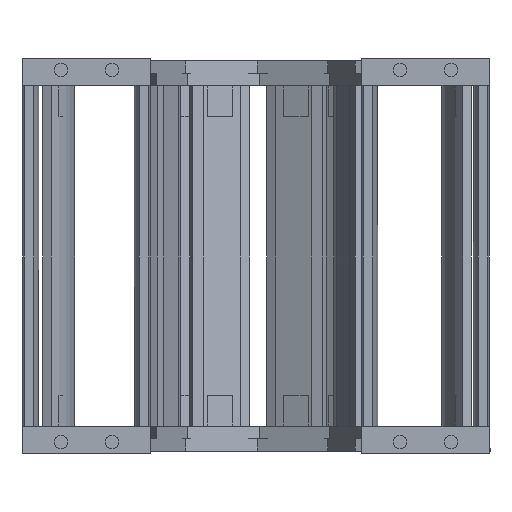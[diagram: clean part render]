
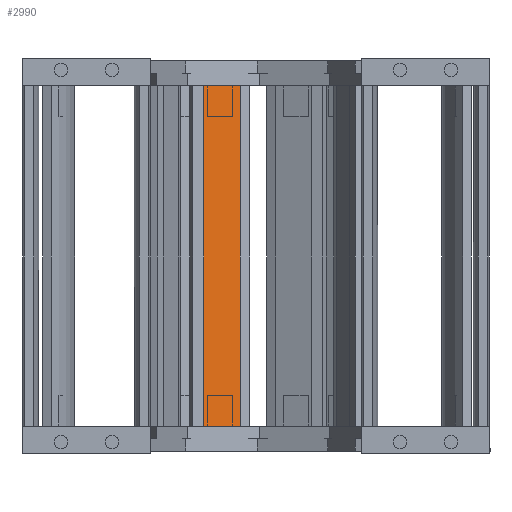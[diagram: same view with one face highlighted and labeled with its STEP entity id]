
A CAD part, left-side view. The second image highlights one B-rep face of the part: STEP entity #2990.
In plain terms, the highlighted planar face has unit normal (-0.93, -0.368, 0) as drawn and (0, -1, 0) by its records, which use the part's own axes.
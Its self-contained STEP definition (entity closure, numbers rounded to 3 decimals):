
#2823=DIRECTION('',(0.,0.,-1.));
#2824=VECTOR('',#2823,200.5);
#2825=CARTESIAN_POINT('',(-11.5,-72.,37.5));
#2826=LINE('',#2825,#2824);
#2852=DIRECTION('',(1.,0.,0.));
#2853=VECTOR('',#2852,23.);
#2854=CARTESIAN_POINT('',(-11.5,-72.,37.5));
#2855=LINE('',#2854,#2853);
#2909=DIRECTION('',(-1.,0.,0.));
#2910=VECTOR('',#2909,23.);
#2911=CARTESIAN_POINT('',(11.5,-72.,-163.));
#2912=LINE('',#2911,#2910);
#2937=DIRECTION('',(0.,0.,-1.));
#2938=VECTOR('',#2937,200.5);
#2939=CARTESIAN_POINT('',(11.5,-72.,37.5));
#2940=LINE('',#2939,#2938);
#2957=CARTESIAN_POINT('',(11.5,-72.,-163.));
#2958=VERTEX_POINT('',#2957);
#2959=CARTESIAN_POINT('',(-11.5,-72.,-163.));
#2960=VERTEX_POINT('',#2959);
#2969=CARTESIAN_POINT('',(11.5,-72.,37.5));
#2970=VERTEX_POINT('',#2969);
#2973=CARTESIAN_POINT('',(-11.5,-72.,37.5));
#2974=VERTEX_POINT('',#2973);
#2975=CARTESIAN_POINT('',(15.5,-72.,-163.));
#2976=DIRECTION('',(0.,1.,0.));
#2977=DIRECTION('',(-1.,0.,0.));
#2978=AXIS2_PLACEMENT_3D('',#2975,#2976,#2977);
#2979=PLANE('',#2978);
#2981=ORIENTED_EDGE('',*,*,#2980,.F.);
#2983=ORIENTED_EDGE('',*,*,#2982,.T.);
#2985=ORIENTED_EDGE('',*,*,#2984,.T.);
#2987=ORIENTED_EDGE('',*,*,#2986,.T.);
#2988=EDGE_LOOP('',(#2981,#2983,#2985,#2987));
#2989=FACE_OUTER_BOUND('',#2988,.F.);
#2990=ADVANCED_FACE('',(#2989),#2979,.F.);
#2980=EDGE_CURVE('',#2974,#2960,#2826,.T.);
#2982=EDGE_CURVE('',#2974,#2970,#2855,.T.);
#2984=EDGE_CURVE('',#2970,#2958,#2940,.T.);
#2986=EDGE_CURVE('',#2958,#2960,#2912,.T.);
